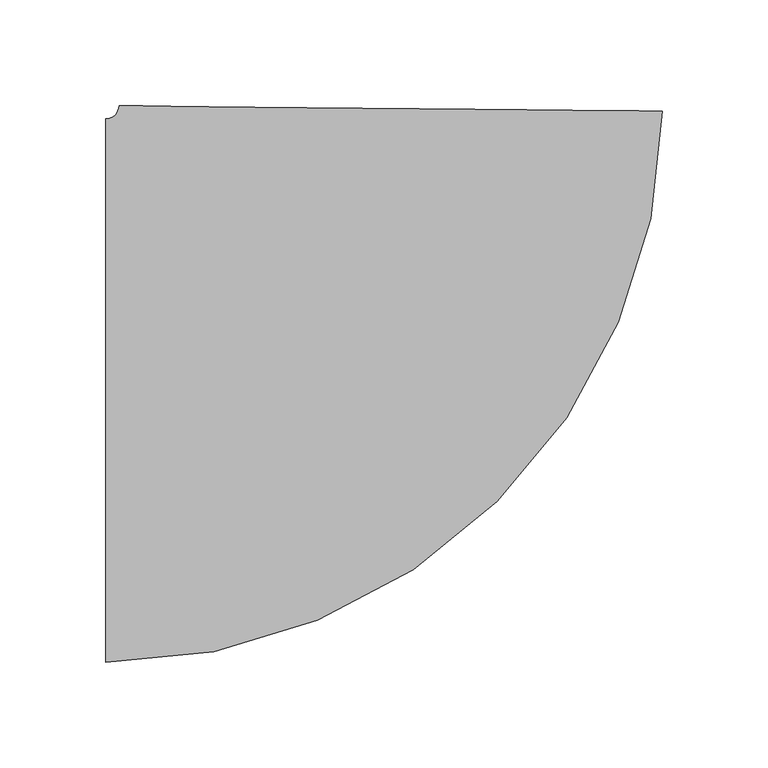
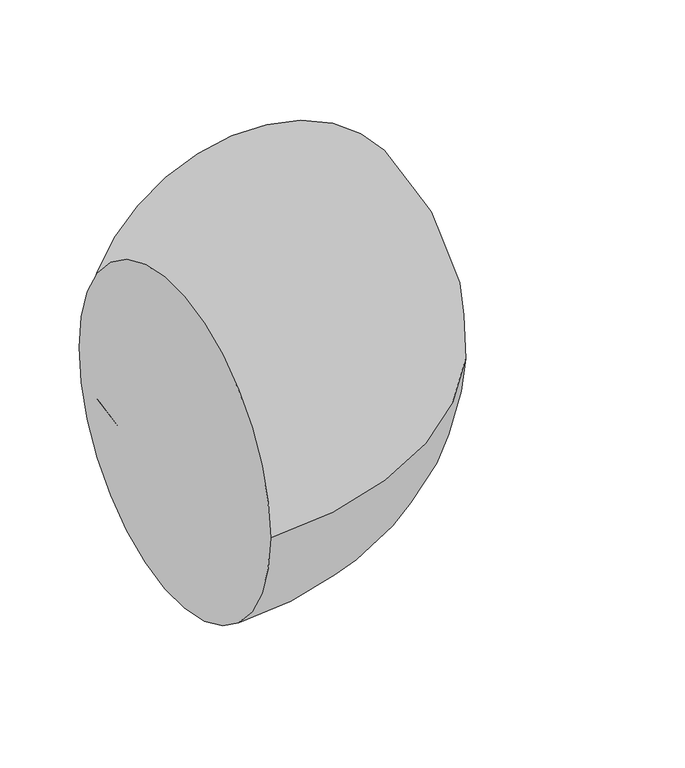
"""IFC4 building model written with IfcOpenShell, lengths in millimetres: pipe fitting geometry, M_Codo - Genérico : Estándar."""

from ifc_helpers import new_model, si_unit, point, frame, origin, place, context, project, spatial, circle_curve, ellipse_curve, trimmed, source, transform, mapped, element, save
from ifc_brep_helpers import plane_surface, revolved_surface, advanced_brep


def pipe_fitting_787621f4(model_context):
    return source(origin(), model_context, "Body", "AdvancedBrep", [
        advanced_brep(
        [(-133.5948713, -128.5875, 0.0), (-133.5948713, 128.5875, 0.0), (129.9169534, 132.302381, 0.0), (-127.2451888, 134.8740032, 0.0)],
        [
            (0, 1, circle_curve(frame((-133.5948713, 0.0, 0.0), z_axis=(-1.0, 0.0, 0.0), x_axis=(0.0, 1.0, 0.0)), 128.5875)),
            (1, 0, circle_curve(frame((-133.5948713, 0.0, 0.0), z_axis=(-1.0, 0.0, 0.0), x_axis=(0.0, 1.0, 0.0)), 128.5875)),
            (2, 3, circle_curve(frame((1.3358823, 133.5881921, 0.0), z_axis=(0.00999950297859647, 0.9999500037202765, 0.0), x_axis=(-0.9999500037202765, 0.00999950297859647, 0.0)), 128.5875)),
            (3, 2, circle_curve(frame((1.3358823, 133.5881921, 0.0), z_axis=(0.00999950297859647, 0.9999500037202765, 0.0), x_axis=(-0.9999500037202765, 0.00999950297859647, 0.0)), 128.5875)),
            (3, 1, circle_curve(frame((-133.5948713, 134.9375, 0.0), z_axis=(0.0, 0.0, -1.0), x_axis=(0.0, -1.0, 0.0)), 6.35)),
            (0, 2, circle_curve(frame((-133.5948713, 134.9375, 0.0), z_axis=(0.0, 0.0, 1.0), x_axis=(0.0, -1.0, 0.0)), 263.525)),
        ],
        [
            plane_surface(frame((-133.5948713, 0.0, 0.0), z_axis=(-1.0, 0.0, 0.0), x_axis=(0.0, 0.0, 1.0))),
            plane_surface(frame((1.3358823, 133.5881921, 0.0), z_axis=(0.009999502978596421, 0.9999500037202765, 0.0), x_axis=(0.0, 0.0, 1.0))),
            revolved_surface(trimmed(ellipse_curve(frame((-133.5948713, 0.0, 0.0), z_axis=(-1.0, 0.0, 0.0), x_axis=(0.0, 1.0, 0.0)), 128.5875, 128.5875), [point((-133.5948713, -128.5875, 0.0))], [point((-133.5948713, 128.5875, 0.0))], True, "CARTESIAN"), (-133.5948713, 134.9375, 0.0), (0.0, 0.0, 1.0)),
            revolved_surface(trimmed(ellipse_curve(frame((-133.5948713, 0.0, 0.0), z_axis=(-1.0, 0.0, 0.0), x_axis=(0.0, 1.0, 0.0)), 128.5875, 128.5875), [point((-133.5948713, 128.5875, 0.0))], [point((-133.5948713, -128.5875, 0.0))], True, "CARTESIAN"), (-133.5948713, 134.9375, 0.0), (0.0, 0.0, 1.0)),
        ],
        [
            (0, [[1, 2]]),
            (1, [[3, 4]]),
            (2, [[5, -1, 6, -4]]),
            (3, [[-6, -2, -5, -3]]),
        ],
    ),
    ])


if __name__ == "__main__":
    model = new_model("IFC4")
    model_context = context("Model", 3, world=origin())
    ifc_project = project(units=[si_unit("LENGTHUNIT", "METRE", prefix="MILLI")], contexts=[model_context])
    site = spatial("IfcSite", under=ifc_project)
    building = spatial("IfcBuilding", under=site)
    placement = place(None, origin())
    pipe_fitting_shape = pipe_fitting_787621f4(model_context)
    element("IfcPipeFitting", 1, ObjectType="M_Codo - Genérico : Estándar", at=placement, inside=building, context=model_context, shape_type="MappedRepresentation", body=[
        mapped(pipe_fitting_shape, transform((0.0, 0.0, 0.0), x_axis=(1.0, 0.0, 0.0), y_axis=(0.0, 1.0, 0.0), z_axis=(0.0, 0.0, 1.0))),
    ])
    save(model, "model.ifc")
